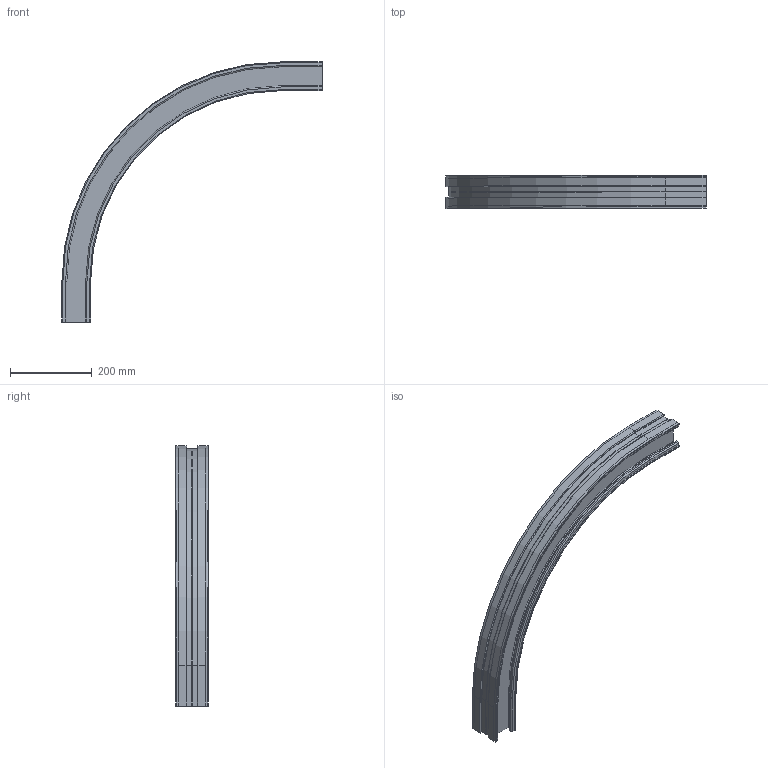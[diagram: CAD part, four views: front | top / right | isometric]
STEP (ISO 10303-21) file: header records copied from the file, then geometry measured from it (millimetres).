
FILE_DESCRIPTION (( 'STEP AP203' ), '1' );
FILE_NAME ('R1C500-90.STEP', '2008-11-24T14:45:51', ( 'faber' ), ( '' ), 'SwSTEP 2.0', 'SolidWorks 2008', '' );
FILE_SCHEMA (( 'CONFIG_CONTROL_DESIGN' ));
Length unit declared in the file: millimetre
Products named in the file (1): R1C500-90
Bounding box: 635 x 79.8 x 635 mm (x, y, z)
Surface area: 604615.4 mm2 (no closed solid volume)
Topology: 0 solids, 5 shells, 212 faces, 646 edges, 432 vertices
Faces by surface type: plane 112, cylinder 72, torus 20, cone 8
Entity records: 7193 total; most frequent: CARTESIAN_POINT 1291, DIRECTION 1258, ORIENTED_EDGE 1124, EDGE_CURVE 646, VECTOR 460, LINE 460, VERTEX_POINT 432, AXIS2_PLACEMENT_3D 399
